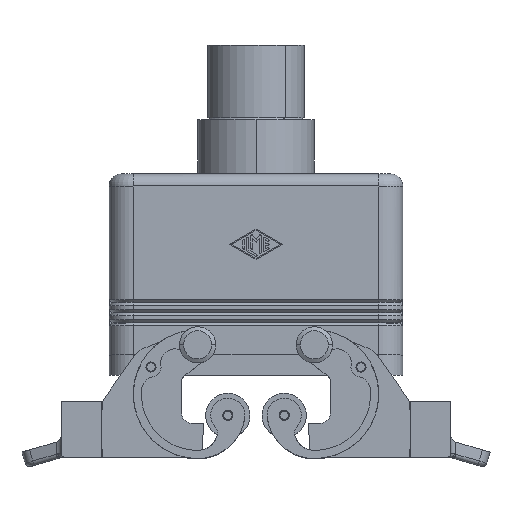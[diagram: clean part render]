
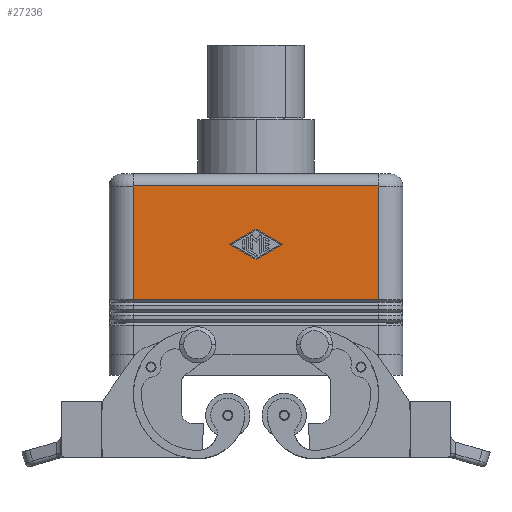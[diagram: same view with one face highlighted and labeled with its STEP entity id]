
A CAD part, top view. The second image highlights one B-rep face of the part: STEP entity #27236.
In plain terms, the highlighted planar face has unit normal (0, 0, 1).
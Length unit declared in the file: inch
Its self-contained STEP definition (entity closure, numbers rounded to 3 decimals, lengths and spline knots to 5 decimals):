
#716 = CARTESIAN_POINT ( 'NONE',  ( 0.25592, 1.27953, 0.58987 ) ) ;
#816 = EDGE_LOOP ( 'NONE', ( #23741, #17796, #15157, #5391 ) ) ;
#2024 = VERTEX_POINT ( 'NONE', #20030 ) ;
#2270 = EDGE_CURVE ( 'NONE', #22962, #10681, #9848, .T. ) ;
#4251 = VECTOR ( 'NONE', #24795, 39.37008 ) ;
#5391 = ORIENTED_EDGE ( 'NONE', *, *, #23431, .F. ) ;
#5408 = CARTESIAN_POINT ( 'NONE',  ( 0., 0.73819, 0.58987 ) ) ;
#6101 = AXIS2_PLACEMENT_3D ( 'NONE', #8305, #30828, #11577 ) ;
#7171 = DIRECTION ( 'NONE',  ( 1., 0., 0. ) ) ;
#7407 = LINE ( 'NONE', #36404, #24579 ) ;
#8305 = CARTESIAN_POINT ( 'NONE',  ( 0., 0.98425, 0.58987 ) ) ;
#9047 = VERTEX_POINT ( 'NONE', #15420 ) ;
#9323 = LINE ( 'NONE', #29764, #26428 ) ;
#9848 = LINE ( 'NONE', #16783, #17404 ) ;
#10681 = VERTEX_POINT ( 'NONE', #34216 ) ;
#11577 = DIRECTION ( 'NONE',  ( 0., 1., 0. ) ) ;
#11887 = VERTEX_POINT ( 'NONE', #28950 ) ;
#12016 = VECTOR ( 'NONE', #7171, 39.37008 ) ;
#12155 = EDGE_CURVE ( 'NONE', #21729, #24115, #12599, .T. ) ;
#12338 = EDGE_CURVE ( 'NONE', #17315, #2024, #36251, .T. ) ;
#12599 = LINE ( 'NONE', #15503, #20072 ) ;
#13588 = DIRECTION ( 'NONE',  ( 0.866, -0.5, 0. ) ) ;
#15036 = DIRECTION ( 'NONE',  ( 0.866, 0.5, 0. ) ) ;
#15157 = ORIENTED_EDGE ( 'NONE', *, *, #12155, .F. ) ;
#15256 = EDGE_LOOP ( 'NONE', ( #23316, #38723, #29336, #20442 ) ) ;
#15420 = CARTESIAN_POINT ( 'NONE',  ( -0.25592, 1.27953, 0.58987 ) ) ;
#15503 = CARTESIAN_POINT ( 'NONE',  ( 0., 1.13195, 0.58987 ) ) ;
#16475 = EDGE_CURVE ( 'NONE', #11887, #9047, #7407, .T. ) ;
#16552 = DIRECTION ( 'NONE',  ( 0., 1., 0. ) ) ;
#16783 = CARTESIAN_POINT ( 'NONE',  ( -1.20079, 1.47638, 0.58987 ) ) ;
#17248 = EDGE_CURVE ( 'NONE', #24115, #11887, #40663, .T. ) ;
#17315 = VERTEX_POINT ( 'NONE', #20407 ) ;
#17404 = VECTOR ( 'NONE', #16552, 39.37008 ) ;
#17796 = ORIENTED_EDGE ( 'NONE', *, *, #17248, .F. ) ;
#17811 = CARTESIAN_POINT ( 'NONE',  ( -1.20079, 0.73819, 0.58987 ) ) ;
#20030 = CARTESIAN_POINT ( 'NONE',  ( 1.20079, 0.73819, 0.58987 ) ) ;
#20072 = VECTOR ( 'NONE', #15036, 39.37008 ) ;
#20407 = CARTESIAN_POINT ( 'NONE',  ( 1.20079, 1.85039, 0.58987 ) ) ;
#20442 = ORIENTED_EDGE ( 'NONE', *, *, #21278, .F. ) ;
#20506 = LINE ( 'NONE', #36185, #12016 ) ;
#21253 = DIRECTION ( 'NONE',  ( -0.866, 0.5, 0. ) ) ;
#21278 = EDGE_CURVE ( 'NONE', #10681, #17315, #20506, .T. ) ;
#21298 = CARTESIAN_POINT ( 'NONE',  ( 0.25592, 1.27953, 0.58987 ) ) ;
#21729 = VERTEX_POINT ( 'NONE', #35723 ) ;
#22962 = VERTEX_POINT ( 'NONE', #17811 ) ;
#23316 = ORIENTED_EDGE ( 'NONE', *, *, #2270, .F. ) ;
#23431 = EDGE_CURVE ( 'NONE', #9047, #21729, #9323, .T. ) ;
#23741 = ORIENTED_EDGE ( 'NONE', *, *, #16475, .F. ) ;
#24115 = VERTEX_POINT ( 'NONE', #716 ) ;
#24579 = VECTOR ( 'NONE', #36317, 39.37008 ) ;
#24795 = DIRECTION ( 'NONE',  ( -1., 0., 0. ) ) ;
#26428 = VECTOR ( 'NONE', #13588, 39.37008 ) ;
#26649 = EDGE_CURVE ( 'NONE', #2024, #22962, #37699, .T. ) ;
#27236 = ADVANCED_FACE ( 'NONE', ( #41113, #32553 ), #37236, .F. ) ;
#27629 = VECTOR ( 'NONE', #41529, 39.37008 ) ;
#28950 = CARTESIAN_POINT ( 'NONE',  ( 0., 1.42711, 0.58987 ) ) ;
#29336 = ORIENTED_EDGE ( 'NONE', *, *, #12338, .F. ) ;
#29764 = CARTESIAN_POINT ( 'NONE',  ( -0.25592, 1.27953, 0.58987 ) ) ;
#30828 = DIRECTION ( 'NONE',  ( 0., 0., -1. ) ) ;
#32553 = FACE_OUTER_BOUND ( 'NONE', #15256, .T. ) ;
#34216 = CARTESIAN_POINT ( 'NONE',  ( -1.20079, 1.85039, 0.58987 ) ) ;
#35723 = CARTESIAN_POINT ( 'NONE',  ( 0., 1.13195, 0.58987 ) ) ;
#36185 = CARTESIAN_POINT ( 'NONE',  ( 0.7185, 1.85039, 0.58987 ) ) ;
#36251 = LINE ( 'NONE', #41823, #27629 ) ;
#36317 = DIRECTION ( 'NONE',  ( -0.866, -0.5, 0. ) ) ;
#36404 = CARTESIAN_POINT ( 'NONE',  ( 0., 1.42711, 0.58987 ) ) ;
#37236 = PLANE ( 'NONE',  #6101 ) ;
#37699 = LINE ( 'NONE', #5408, #4251 ) ;
#38723 = ORIENTED_EDGE ( 'NONE', *, *, #26649, .F. ) ;
#39659 = VECTOR ( 'NONE', #21253, 39.37008 ) ;
#40663 = LINE ( 'NONE', #21298, #39659 ) ;
#41113 = FACE_BOUND ( 'NONE', #816, .T. ) ;
#41529 = DIRECTION ( 'NONE',  ( 0., -1., 0. ) ) ;
#41823 = CARTESIAN_POINT ( 'NONE',  ( 1.20079, 0.49213, 0.58987 ) ) ;
